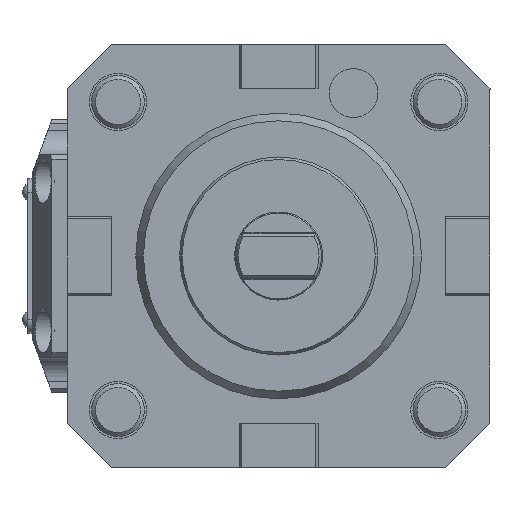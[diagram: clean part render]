
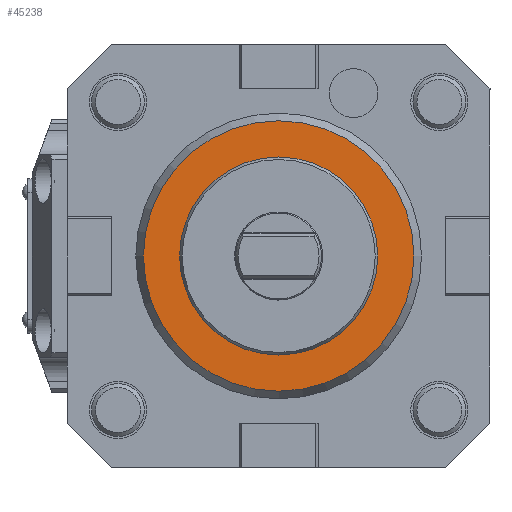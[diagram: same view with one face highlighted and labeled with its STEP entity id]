
A CAD part, left-side view. The second image highlights one B-rep face of the part: STEP entity #45238.
In plain terms, the highlighted planar face has unit normal (-1, 0, 0).
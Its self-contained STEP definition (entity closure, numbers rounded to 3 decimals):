
#21134=PLANE('',#43732);
#21868=ORIENTED_EDGE('',*,*,#27096,.T.);
#21869=ORIENTED_EDGE('',*,*,#27095,.F.);
#25297=CIRCLE('',#43731,22.5);
#25298=CIRCLE('',#43733,30.718);
#25873=VERTEX_POINT('',#34956);
#25874=VERTEX_POINT('',#34959);
#27095=EDGE_CURVE('',#25873,#25873,#25297,.T.);
#27096=EDGE_CURVE('',#25874,#25874,#25298,.T.);
#28814=EDGE_LOOP('',(#21868));
#28815=EDGE_LOOP('',(#21869));
#29935=FACE_BOUND('',#28814,.T.);
#29936=FACE_BOUND('',#28815,.T.);
#31084=DIRECTION('',(-1.,0.,0.));
#31085=DIRECTION('',(0.,-22.5,0.));
#31086=DIRECTION('',(-1.,0.,0.));
#31087=DIRECTION('',(0.,1.,0.));
#31088=DIRECTION('',(-1.,0.,0.));
#31089=DIRECTION('',(0.,-30.718,0.));
#34956=CARTESIAN_POINT('',(-54.,22.5,0.));
#34957=CARTESIAN_POINT('',(-54.,0.,0.));
#34958=CARTESIAN_POINT('',(-54.,30.718,0.));
#34959=CARTESIAN_POINT('',(-54.,30.718,0.));
#34960=CARTESIAN_POINT('',(-54.,0.,0.));
#43731=AXIS2_PLACEMENT_3D('',#34957,#31084,#31085);
#43732=AXIS2_PLACEMENT_3D('',#34958,#31086,#31087);
#43733=AXIS2_PLACEMENT_3D('',#34960,#31088,#31089);
#45238=ADVANCED_FACE('',(#29935,#29936),#21134,.T.);
